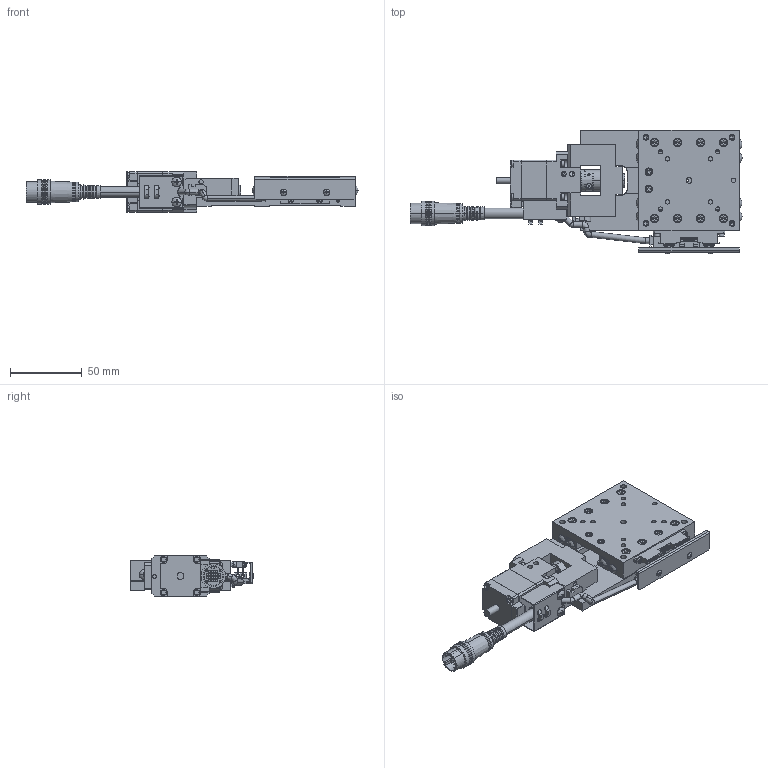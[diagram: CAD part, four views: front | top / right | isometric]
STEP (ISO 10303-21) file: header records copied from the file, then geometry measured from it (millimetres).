
FILE_DESCRIPTION (( 'STEP AP203' ), '1' );
FILE_NAME ('XA07A-R202.STEP', '2019-02-20T07:47:35', ( '' ), ( '' ), 'SwSTEP 2.0', 'SolidWorks 2018', '' );
FILE_SCHEMA (( 'CONFIG_CONTROL_DESIGN' ));
Length unit declared in the file: millimetre
Products named in the file (6): base-Part-2; base-Part-1; base-Part-3; table; base; XA07A-R202
Assembly tree (5 placements, depth 3):
  XA07A-R202
    base
      base-Part-1
      base-Part-2
      base-Part-3
    table
Bounding box: 231.39 x 86.18 x 28 mm (x, y, z)
Volume: 167865.4 mm3; surface area: 71027.4 mm2
Topology: 4 solids, 4 shells, 2214 faces, 5539 edges, 3398 vertices
Faces by surface type: plane 1286, cylinder 545, cone 305, torus 44, sphere 34
Entity records: 66657 total; most frequent: CARTESIAN_POINT 12228, DIRECTION 11703, ORIENTED_EDGE 10878, EDGE_CURVE 5439, AXIS2_PLACEMENT_3D 4181, VERTEX_POINT 3392, VECTOR 3341, LINE 3341
